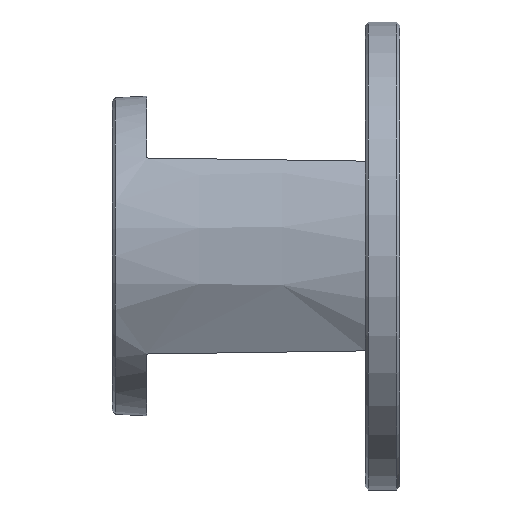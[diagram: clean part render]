
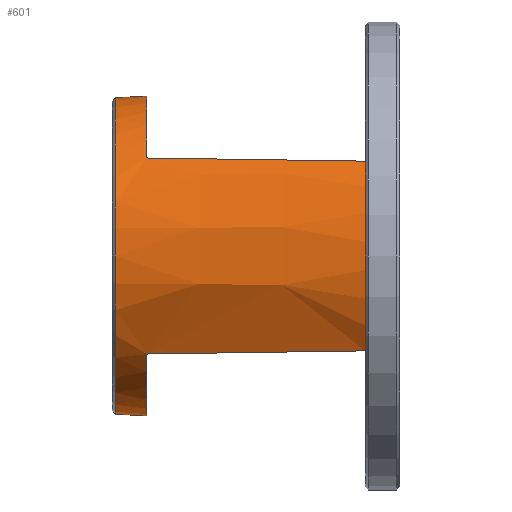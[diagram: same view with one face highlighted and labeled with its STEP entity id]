
A CAD part, left-side view. The second image highlights one B-rep face of the part: STEP entity #601.
In plain terms, the highlighted conical face has half-angle 2.862 degrees and reference radius 27 mm.
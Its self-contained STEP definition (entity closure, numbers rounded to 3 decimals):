
#38 = EDGE_CURVE ( 'NONE', #982, #408, #1360, .T. ) ;
#47 = VERTEX_POINT ( 'NONE', #1972 ) ;
#55 = CONICAL_SURFACE ( 'NONE', #591, 27., 0.05 ) ;
#80 = CARTESIAN_POINT ( 'NONE',  ( 0., 5.5, 0. ) ) ;
#115 = CIRCLE ( 'NONE', #769, 27. ) ;
#119 = CARTESIAN_POINT ( 'NONE',  ( -22.45, 5.5, 15. ) ) ;
#130 = CARTESIAN_POINT ( 'NONE',  ( -19.964, 40., 15.5 ) ) ;
#165 = CARTESIAN_POINT ( 'NONE',  ( -21.647, 17.002, 15.167 ) ) ;
#170 = ORIENTED_EDGE ( 'NONE', *, *, #1940, .T. ) ;
#188 = CIRCLE ( 'NONE', #1073, 25.275 ) ;
#200 = FACE_OUTER_BOUND ( 'NONE', #401, .T. ) ;
#220 = CARTESIAN_POINT ( 'NONE',  ( -19.964, 40., 15.5 ) ) ;
#245 = DIRECTION ( 'NONE',  ( 0., -1., 0. ) ) ;
#269 = AXIS2_PLACEMENT_3D ( 'NONE', #540, #1146, #1318 ) ;
#358 = DIRECTION ( 'NONE',  ( 0., -1., 0. ) ) ;
#401 = EDGE_LOOP ( 'NONE', ( #2074, #1183, #170, #451, #1909, #1106, #588, #686 ) ) ;
#408 = VERTEX_POINT ( 'NONE', #506 ) ;
#451 = ORIENTED_EDGE ( 'NONE', *, *, #1320, .T. ) ;
#491 = AXIS2_PLACEMENT_3D ( 'NONE', #999, #358, #871 ) ;
#498 = CARTESIAN_POINT ( 'NONE',  ( 0., 5.5, 27. ) ) ;
#499 = CARTESIAN_POINT ( 'NONE',  ( -22.45, 5.5, -15. ) ) ;
#506 = CARTESIAN_POINT ( 'NONE',  ( 0., 40., 25.275 ) ) ;
#511 = VERTEX_POINT ( 'NONE', #964 ) ;
#514 = CARTESIAN_POINT ( 'NONE',  ( -19.964, 40., -15.5 ) ) ;
#523 = EDGE_CURVE ( 'NONE', #614, #511, #1265, .T. ) ;
#540 = CARTESIAN_POINT ( 'NONE',  ( 0., 40., 0. ) ) ;
#581 = CARTESIAN_POINT ( 'NONE',  ( 0., 44.974, -25.026 ) ) ;
#588 = ORIENTED_EDGE ( 'NONE', *, *, #523, .F. ) ;
#591 = AXIS2_PLACEMENT_3D ( 'NONE', #671, #1332, #2002 ) ;
#601 = ADVANCED_FACE ( 'NONE', ( #200 ), #55, .T. ) ;
#614 = VERTEX_POINT ( 'NONE', #220 ) ;
#625 = EDGE_CURVE ( 'NONE', #1526, #1223, #1712, .T. ) ;
#671 = CARTESIAN_POINT ( 'NONE',  ( 0., 5.5, 0. ) ) ;
#686 = ORIENTED_EDGE ( 'NONE', *, *, #2069, .F. ) ;
#769 = AXIS2_PLACEMENT_3D ( 'NONE', #80, #245, #1243 ) ;
#813 = CARTESIAN_POINT ( 'NONE',  ( -20.822, 28.502, 15.333 ) ) ;
#817 = CIRCLE ( 'NONE', #269, 25.275 ) ;
#841 = CARTESIAN_POINT ( 'NONE',  ( 0., 5.5, -27. ) ) ;
#871 = DIRECTION ( 'NONE',  ( 0., 0., 1. ) ) ;
#964 = CARTESIAN_POINT ( 'NONE',  ( -22.45, 5.5, 15. ) ) ;
#982 = VERTEX_POINT ( 'NONE', #1221 ) ;
#999 = CARTESIAN_POINT ( 'NONE',  ( 0., 44.974, 0. ) ) ;
#1042 = CARTESIAN_POINT ( 'NONE',  ( 0., 40., 0. ) ) ;
#1073 = AXIS2_PLACEMENT_3D ( 'NONE', #1042, #1663, #1326 ) ;
#1089 = VECTOR ( 'NONE', #1961, 1000. ) ;
#1106 = ORIENTED_EDGE ( 'NONE', *, *, #1700, .F. ) ;
#1146 = DIRECTION ( 'NONE',  ( 0., -1., 0. ) ) ;
#1183 = ORIENTED_EDGE ( 'NONE', *, *, #1547, .T. ) ;
#1186 = DIRECTION ( 'NONE',  ( 0., -0.999, 0.05 ) ) ;
#1221 = CARTESIAN_POINT ( 'NONE',  ( 0., 44.974, 25.026 ) ) ;
#1223 = VERTEX_POINT ( 'NONE', #499 ) ;
#1243 = DIRECTION ( 'NONE',  ( 0., 0., -1. ) ) ;
#1265 = B_SPLINE_CURVE_WITH_KNOTS ( 'NONE', 3,
 ( #130, #813, #165, #119 ),
 .UNSPECIFIED., .F., .F.,
 ( 4, 4 ),
 ( 0., 0.035 ),
 .UNSPECIFIED. ) ;
#1318 = DIRECTION ( 'NONE',  ( 0., 0., 1. ) ) ;
#1320 = EDGE_CURVE ( 'NONE', #47, #1526, #188, .T. ) ;
#1326 = DIRECTION ( 'NONE',  ( 0., 0., -1. ) ) ;
#1332 = DIRECTION ( 'NONE',  ( 0., -1., 0. ) ) ;
#1334 = LINE ( 'NONE', #841, #1089 ) ;
#1360 = LINE ( 'NONE', #498, #1851 ) ;
#1487 = CARTESIAN_POINT ( 'NONE',  ( -20.822, 28.502, -15.333 ) ) ;
#1524 = CARTESIAN_POINT ( 'NONE',  ( -22.45, 5.5, -15. ) ) ;
#1526 = VERTEX_POINT ( 'NONE', #1967 ) ;
#1547 = EDGE_CURVE ( 'NONE', #982, #2034, #1921, .T. ) ;
#1663 = DIRECTION ( 'NONE',  ( 0., 1., 0. ) ) ;
#1677 = CARTESIAN_POINT ( 'NONE',  ( -21.647, 17.002, -15.167 ) ) ;
#1700 = EDGE_CURVE ( 'NONE', #511, #1223, #115, .T. ) ;
#1712 = B_SPLINE_CURVE_WITH_KNOTS ( 'NONE', 3,
 ( #514, #1487, #1677, #1524 ),
 .UNSPECIFIED., .F., .F.,
 ( 4, 4 ),
 ( 0., 0.035 ),
 .UNSPECIFIED. ) ;
#1851 = VECTOR ( 'NONE', #1186, 1000. ) ;
#1909 = ORIENTED_EDGE ( 'NONE', *, *, #625, .T. ) ;
#1921 = CIRCLE ( 'NONE', #491, 25.026 ) ;
#1940 = EDGE_CURVE ( 'NONE', #2034, #47, #1334, .T. ) ;
#1961 = DIRECTION ( 'NONE',  ( 0., -0.999, -0.05 ) ) ;
#1967 = CARTESIAN_POINT ( 'NONE',  ( -19.964, 40., -15.5 ) ) ;
#1972 = CARTESIAN_POINT ( 'NONE',  ( 0., 40., -25.275 ) ) ;
#2002 = DIRECTION ( 'NONE',  ( 0., 0., -1. ) ) ;
#2034 = VERTEX_POINT ( 'NONE', #581 ) ;
#2069 = EDGE_CURVE ( 'NONE', #408, #614, #817, .T. ) ;
#2074 = ORIENTED_EDGE ( 'NONE', *, *, #38, .F. ) ;
